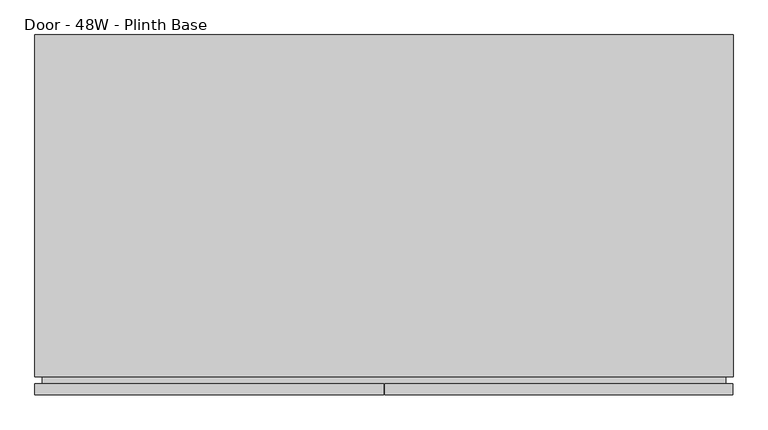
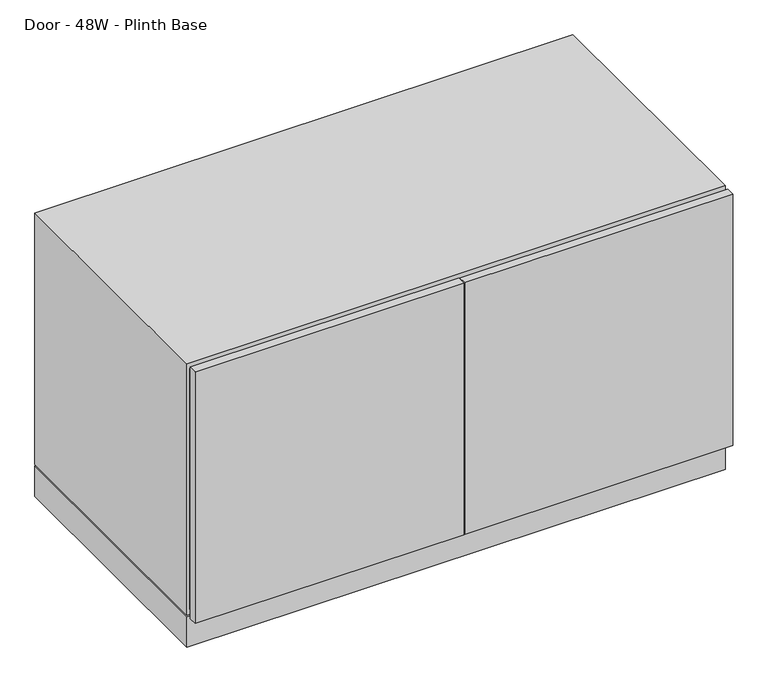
"""IFC4 building model written with IfcOpenShell, lengths in millimetres: furniture geometry, Steelcase Coalesse - Exponents - Storage - Credenza - 27H : Door - 48W - Plinth Base."""

from ifc_helpers import new_model, si_unit, point, frame, frame_2d, origin, origin_with_axes, place, context, project, spatial, polyline, circle_curve, trimmed, segment, composite_curve, outline, extrude, faceted_brep, source, transform, mapped, element, save


def door_48w_plinth_base_9f68a6c0(model_context):
    return source(origin(), model_context, "Body", "SolidModel", [
        faceted_brep([(6.35, 31.75, 673.1), (6.35, 31.75, 95.25), (6.35, 622.3, 95.25), (6.35, 622.3, 673.1), (1212.85, 622.3, 95.25), (1212.85, 622.3, 673.1), (1212.85, 31.75, 95.25), (1212.85, 31.75, 673.1), (0.0, 31.75, 82.55), (1219.2, 31.75, 82.55), (1219.2, 31.75, 685.8), (0.0, 31.75, 685.8), (1219.2, 628.65, 82.55), (1219.2, 628.65, 685.8), (0.0, 628.65, 82.55), (0.0, 628.65, 685.8)], [[[0, 1, 2, 3]], [[3, 2, 4, 5]], [[5, 4, 6, 7]], [[8, 9, 10, 11], [7, 6, 1, 0]], [[10, 9, 12, 13]], [[13, 12, 14, 15]], [[15, 14, 8, 11]], [[7, 0, 3, 5]], [[10, 13, 15, 11]], [[1, 6, 4, 2]], [[12, 9, 8, 14]]]),
        extrude(outline(polyline([(673.1, 1206.5), (673.1, 12.7), (95.25, 12.7), (95.25, 1206.5), (673.1, 1206.5)]), holes=[polyline([(666.75, 1200.15), (101.6, 1200.15), (101.6, 19.05), (666.75, 19.05), (666.75, 1200.15)])]), frame((0.0, 19.05, 0.0), z_axis=(0.0, 1.0, 0.0), x_axis=(0.0, 0.0, 1.0)), (0.0, 0.0, 1.0), 31.75),
        extrude(outline(composite_curve([segment(trimmed(circle_curve(frame_2d((19.05, 593.5667033)), 6.35), [point((12.7, 593.5667033))], [point((25.4, 593.5667033))], False, "CARTESIAN"), True, "CONTINUOUS"), segment(trimmed(circle_curve(frame_2d((19.05, 593.5667033)), 6.35), [point((25.4, 593.5667033))], [point((12.7, 593.5667033))], False, "CARTESIAN"), True, "CONTINUOUS")], self_intersect=False)), origin_with_axes(), (0.0, 0.0, 1.0), 6.35),
        extrude(outline(composite_curve([segment(trimmed(circle_curve(frame_2d((19.05, 66.7867854)), 6.35), [point((12.7, 66.7867854))], [point((25.4, 66.7867854))], False, "CARTESIAN"), True, "CONTINUOUS"), segment(trimmed(circle_curve(frame_2d((19.05, 66.7867854)), 6.35), [point((25.4, 66.7867854))], [point((12.7, 66.7867854))], False, "CARTESIAN"), True, "CONTINUOUS")], self_intersect=False)), origin_with_axes(), (0.0, 0.0, 1.0), 6.35),
        extrude(outline(composite_curve([segment(trimmed(circle_curve(frame_2d((1200.15, 593.5667033)), 6.35), [point((1193.8, 593.5667033))], [point((1206.5, 593.5667033))], False, "CARTESIAN"), True, "CONTINUOUS"), segment(trimmed(circle_curve(frame_2d((1200.15, 593.5667033)), 6.35), [point((1206.5, 593.5667033))], [point((1193.8, 593.5667033))], False, "CARTESIAN"), True, "CONTINUOUS")], self_intersect=False)), origin_with_axes(), (0.0, 0.0, 1.0), 6.35),
        extrude(outline(composite_curve([segment(trimmed(circle_curve(frame_2d((1200.15, 66.7867854)), 6.35), [point((1193.8, 66.7867854))], [point((1206.5, 66.7867854))], False, "CARTESIAN"), True, "CONTINUOUS"), segment(trimmed(circle_curve(frame_2d((1200.15, 66.7867854)), 6.35), [point((1206.5, 66.7867854))], [point((1193.8, 66.7867854))], False, "CARTESIAN"), True, "CONTINUOUS")], self_intersect=False)), origin_with_axes(), (0.0, 0.0, 1.0), 6.35),
        extrude(outline(polyline([(1218.4126, 19.05), (1218.4126, 0.0), (610.5652, 0.0), (610.5652, 19.05), (1218.4126, 19.05)])), frame((0.0, 0.0, 82.55), z_axis=(0.0, 0.0, 1.0), x_axis=(1.0, 0.0, 0.0)), (0.0, 0.0, 1.0), 603.25),
        extrude(outline(polyline([(608.965, 19.05), (608.965, 0.0), (0.0, 0.0), (0.0, 19.05), (608.965, 19.05)])), frame((0.0, 0.0, 82.55), z_axis=(0.0, 0.0, 1.0), x_axis=(1.0, 0.0, 0.0)), (0.0, 0.0, 1.0), 603.25),
        extrude(outline(polyline([(0.0, -19.05), (0.0, 0.0), (31.75, 0.0), (31.75, -19.05), (0.0, -19.05)])), frame((590.55, 19.05, 101.6), z_axis=(3.3608671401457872e-12, 0.0, 1.0), x_axis=(0.0, 1.0, 0.0)), (0.0, 0.0, 1.0), 565.15),
        extrude(outline(polyline([(1219.2, 628.65), (1219.2, 31.75), (0.0, 31.75), (0.0, 628.65), (1219.2, 628.65)]), holes=[polyline([(1200.15, 622.3), (19.05, 622.3), (19.05, 38.1), (1200.15, 38.1), (1200.15, 622.3)])]), frame((0.0, 0.0, 6.35), z_axis=(0.0, 0.0, 1.0), x_axis=(1.0, 0.0, 0.0)), (0.0, 0.0, 1.0), 73.4568),
        extrude(outline(polyline([(590.55, 609.6), (609.6, 609.6), (609.6, 50.8), (590.55, 50.8), (590.55, 609.6)])), frame((0.0, 0.0, 95.25), z_axis=(0.0, 0.0, 1.0), x_axis=(1.0, 0.0, 0.0)), (0.0, 0.0, 1.0), 577.85),
    ])


if __name__ == "__main__":
    model = new_model("IFC4")
    model_context = context("Model", 3, world=origin())
    ifc_project = project(units=[si_unit("LENGTHUNIT", "METRE", prefix="MILLI")], contexts=[model_context])
    site = spatial("IfcSite", under=ifc_project)
    building = spatial("IfcBuilding", under=site)
    placement = place(None, origin())
    door_48w_plinth_base_shape = door_48w_plinth_base_9f68a6c0(model_context)
    element("IfcFurniture", 1, ObjectType="Steelcase Coalesse - Exponents - Storage - Credenza - 27H : Door - 48W - Plinth Base", at=placement, inside=building, context=model_context, shape_type="MappedRepresentation", body=[
        mapped(door_48w_plinth_base_shape, transform((0.0, 0.0, 0.0), x_axis=(1.0, 0.0, 0.0), y_axis=(0.0, 1.0, 0.0), z_axis=(0.0, 0.0, 1.0))),
    ])
    save(model, "model.ifc")
